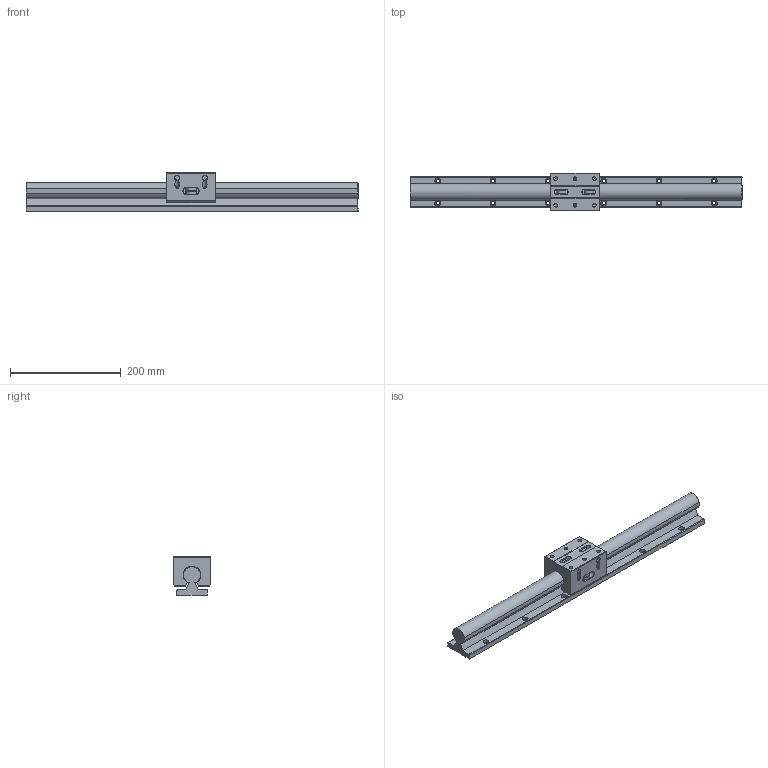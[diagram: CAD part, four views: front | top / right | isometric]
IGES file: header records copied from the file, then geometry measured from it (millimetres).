
Global section: file name: No Iges File Name specified; native system: AutoDesk Inventor R11.0; preprocessor: AutoDesk Inventor Iges Exporter R11.0; author: No Author specified; organization: No Organization specified; date: 20180605.173159; units: millimetre
Bounding box: 600 x 68 x 70 mm (x, y, z)
Surface area: 185552.8 mm2 (no closed solid volume)
Topology: 0 solids, 0 shells, 437 faces, 2978 edges, 2954 vertices
Faces by surface type: bspline 437
